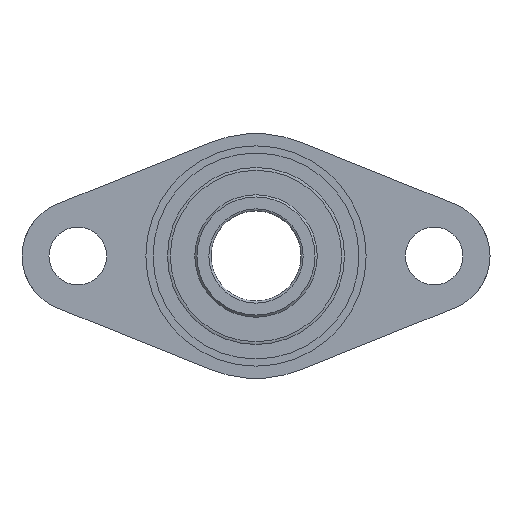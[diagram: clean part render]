
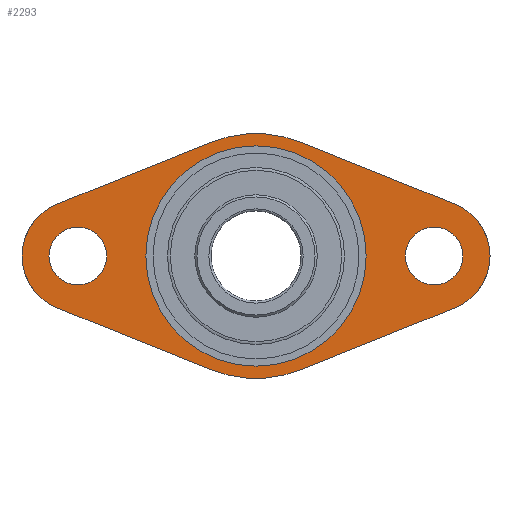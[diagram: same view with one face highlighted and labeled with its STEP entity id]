
A CAD part, left-side view. The second image highlights one B-rep face of the part: STEP entity #2293.
In plain terms, the highlighted planar face has unit normal (-1, 0, 0).
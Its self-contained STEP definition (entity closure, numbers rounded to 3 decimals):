
#49 = VERTEX_POINT ( 'NONE', #505 ) ;
#102 = VERTEX_POINT ( 'NONE', #520 ) ;
#123 = EDGE_LOOP ( 'NONE', ( #728 ) ) ;
#248 = DIRECTION ( 'NONE',  ( 1., 0., 0. ) ) ;
#272 = EDGE_LOOP ( 'NONE', ( #672 ) ) ;
#293 = DIRECTION ( 'NONE',  ( 0., 0., -1. ) ) ;
#310 = CARTESIAN_POINT ( 'NONE',  ( -16., -49.5, 0. ) ) ;
#331 = CARTESIAN_POINT ( 'NONE',  ( -16., 0., -30.6 ) ) ;
#333 = CARTESIAN_POINT ( 'NONE',  ( -16., 49.5, -8. ) ) ;
#337 = CARTESIAN_POINT ( 'NONE',  ( -16., -49.5, -8. ) ) ;
#505 = CARTESIAN_POINT ( 'NONE',  ( -16., 55.293, -14.377 ) ) ;
#515 = ORIENTED_EDGE ( 'NONE', *, *, #2239, .T. ) ;
#520 = CARTESIAN_POINT ( 'NONE',  ( -16., -12.707, -31.536 ) ) ;
#579 = ORIENTED_EDGE ( 'NONE', *, *, #2312, .F. ) ;
#647 = CARTESIAN_POINT ( 'NONE',  ( -16., 12.707, 31.536 ) ) ;
#663 = CARTESIAN_POINT ( 'NONE',  ( -16., -55.293, -14.377 ) ) ;
#672 = ORIENTED_EDGE ( 'NONE', *, *, #2246, .T. ) ;
#691 = CARTESIAN_POINT ( 'NONE',  ( -16., -55.293, 14.377 ) ) ;
#716 = DIRECTION ( 'NONE',  ( 0., 0., -1. ) ) ;
#727 = DIRECTION ( 'NONE',  ( 1., 0., 0. ) ) ;
#728 = ORIENTED_EDGE ( 'NONE', *, *, #2255, .T. ) ;
#800 = DIRECTION ( 'NONE',  ( 0., 0.928, 0.374 ) ) ;
#818 = CARTESIAN_POINT ( 'NONE',  ( -16., 55.293, -14.377 ) ) ;
#832 = CARTESIAN_POINT ( 'NONE',  ( -16., 49.5, 0. ) ) ;
#835 = DIRECTION ( 'NONE',  ( 0., 0.928, -0.374 ) ) ;
#878 = ORIENTED_EDGE ( 'NONE', *, *, #2224, .T. ) ;
#882 = ORIENTED_EDGE ( 'NONE', *, *, #2207, .T. ) ;
#919 = CARTESIAN_POINT ( 'NONE',  ( -16., -55.293, 14.377 ) ) ;
#926 = CARTESIAN_POINT ( 'NONE',  ( -16., -12.707, 31.536 ) ) ;
#1019 = DIRECTION ( 'NONE',  ( 0., -0.928, -0.374 ) ) ;
#1068 = VERTEX_POINT ( 'NONE', #1433 ) ;
#1136 = AXIS2_PLACEMENT_3D ( 'NONE', #2458, #2425, #2423 ) ;
#1154 = AXIS2_PLACEMENT_3D ( 'NONE', #2646, #2600, #2596 ) ;
#1155 = AXIS2_PLACEMENT_3D ( 'NONE', #2565, #2560, #2554 ) ;
#1196 = AXIS2_PLACEMENT_3D ( 'NONE', #2769, #2768, #2765 ) ;
#1216 = AXIS2_PLACEMENT_3D ( 'NONE', #2801, #2799, #2795 ) ;
#1221 = AXIS2_PLACEMENT_3D ( 'NONE', #310, #248, #293 ) ;
#1237 = AXIS2_PLACEMENT_3D ( 'NONE', #832, #727, #716 ) ;
#1255 = AXIS2_PLACEMENT_3D ( 'NONE', #1497, #1585, #2819 ) ;
#1433 = CARTESIAN_POINT ( 'NONE',  ( -16., -55.293, -14.377 ) ) ;
#1497 = CARTESIAN_POINT ( 'NONE',  ( -16., 0., 0. ) ) ;
#1541 = VERTEX_POINT ( 'NONE', #331 ) ;
#1546 = VERTEX_POINT ( 'NONE', #333 ) ;
#1550 = VERTEX_POINT ( 'NONE', #337 ) ;
#1585 = DIRECTION ( 'NONE',  ( 1., 0., 0. ) ) ;
#1758 = CARTESIAN_POINT ( 'NONE',  ( -16., 55.293, 14.377 ) ) ;
#1832 = VERTEX_POINT ( 'NONE', #1998 ) ;
#1907 = VERTEX_POINT ( 'NONE', #2589 ) ;
#1998 = CARTESIAN_POINT ( 'NONE',  ( -16., 55.293, 14.377 ) ) ;
#2171 = EDGE_CURVE ( 'E214', #2701, #2527, #2783, .T. ) ;
#2180 = EDGE_CURVE ( 'E193', #1832, #2701, #2455, .T. ) ;
#2189 = EDGE_LOOP ( 'NONE', ( #2230, #2716, #878, #2563, #2730, #2240, #882, #579 ) ) ;
#2207 = EDGE_CURVE ( 'E376', #49, #1907, #2517, .T. ) ;
#2211 = EDGE_CURVE ( 'E382', #49, #1832, #2581, .T. ) ;
#2224 = EDGE_CURVE ( 'E240', #2534, #2527, #2512, .T. ) ;
#2230 = ORIENTED_EDGE ( 'NONE', *, *, #2231, .F. ) ;
#2231 = EDGE_CURVE ( 'E329', #1068, #102, #2428, .T. ) ;
#2239 = EDGE_CURVE ( 'NONE', #1550, #1550, #2592, .T. ) ;
#2240 = ORIENTED_EDGE ( 'NONE', *, *, #2211, .F. ) ;
#2246 = EDGE_CURVE ( 'NONE', #1546, #1546, #2603, .T. ) ;
#2254 = EDGE_LOOP ( 'NONE', ( #515 ) ) ;
#2255 = EDGE_CURVE ( 'NONE', #1541, #1541, #2388, .T. ) ;
#2293 = ADVANCED_FACE ( 'E454', ( #2385, #2539, #2620, #2587 ), #2605, .F. ) ;
#2297 = EDGE_CURVE ( 'E246', #2534, #1068, #2363, .T. ) ;
#2312 = EDGE_CURVE ( 'E350', #102, #1907, #2525, .T. ) ;
#2363 = CIRCLE ( 'NONE', #1155, 15.5 ) ;
#2385 = FACE_BOUND ( 'NONE', #123, .T. ) ;
#2388 = CIRCLE ( 'NONE', #1196, 30.6 ) ;
#2423 = DIRECTION ( 'NONE',  ( 0., 0., -1. ) ) ;
#2425 = DIRECTION ( 'NONE',  ( 1., 0., 0. ) ) ;
#2428 = LINE ( 'NONE', #663, #2595 ) ;
#2438 = DIRECTION ( 'NONE',  ( 0., -0.928, 0.374 ) ) ;
#2455 = LINE ( 'NONE', #1758, #2693 ) ;
#2458 = CARTESIAN_POINT ( 'NONE',  ( -16., 0., 0. ) ) ;
#2512 = LINE ( 'NONE', #691, #2551 ) ;
#2517 = LINE ( 'NONE', #818, #2752 ) ;
#2525 = CIRCLE ( 'NONE', #1136, 34. ) ;
#2527 = VERTEX_POINT ( 'NONE', #926 ) ;
#2534 = VERTEX_POINT ( 'NONE', #919 ) ;
#2539 = FACE_BOUND ( 'NONE', #2254, .T. ) ;
#2551 = VECTOR ( 'NONE', #800, 1000. ) ;
#2554 = DIRECTION ( 'NONE',  ( 0., 0., -1. ) ) ;
#2560 = DIRECTION ( 'NONE',  ( 1., 0., 0. ) ) ;
#2563 = ORIENTED_EDGE ( 'NONE', *, *, #2171, .F. ) ;
#2565 = CARTESIAN_POINT ( 'NONE',  ( -16., -49.5, 0. ) ) ;
#2581 = CIRCLE ( 'NONE', #1237, 15.5 ) ;
#2587 = FACE_OUTER_BOUND ( 'NONE', #2189, .T. ) ;
#2589 = CARTESIAN_POINT ( 'NONE',  ( -16., 12.707, -31.536 ) ) ;
#2592 = CIRCLE ( 'NONE', #1221, 8. ) ;
#2595 = VECTOR ( 'NONE', #835, 1000. ) ;
#2596 = DIRECTION ( 'NONE',  ( 0., 0., -1. ) ) ;
#2600 = DIRECTION ( 'NONE',  ( 1., 0., 0. ) ) ;
#2603 = CIRCLE ( 'NONE', #1216, 8. ) ;
#2605 = PLANE ( 'NONE',  #1154 ) ;
#2620 = FACE_BOUND ( 'NONE', #272, .T. ) ;
#2646 = CARTESIAN_POINT ( 'NONE',  ( -16., 0., 0. ) ) ;
#2693 = VECTOR ( 'NONE', #2438, 1000. ) ;
#2701 = VERTEX_POINT ( 'NONE', #647 ) ;
#2716 = ORIENTED_EDGE ( 'NONE', *, *, #2297, .F. ) ;
#2730 = ORIENTED_EDGE ( 'NONE', *, *, #2180, .F. ) ;
#2752 = VECTOR ( 'NONE', #1019, 1000. ) ;
#2765 = DIRECTION ( 'NONE',  ( 0., 0., -1. ) ) ;
#2768 = DIRECTION ( 'NONE',  ( 1., 0., 0. ) ) ;
#2769 = CARTESIAN_POINT ( 'NONE',  ( -16., 0., 0. ) ) ;
#2783 = CIRCLE ( 'NONE', #1255, 34. ) ;
#2795 = DIRECTION ( 'NONE',  ( 0., 0., -1. ) ) ;
#2799 = DIRECTION ( 'NONE',  ( 1., 0., 0. ) ) ;
#2801 = CARTESIAN_POINT ( 'NONE',  ( -16., 49.5, 0. ) ) ;
#2819 = DIRECTION ( 'NONE',  ( 0., 0., -1. ) ) ;
